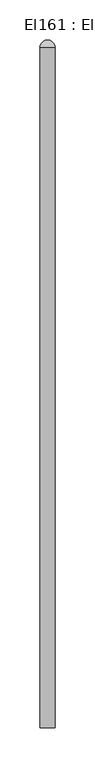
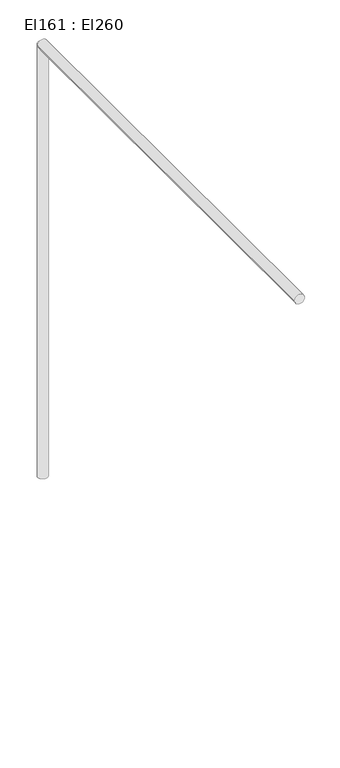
"""IFC4 building model written with IfcOpenShell, lengths in millimetres: cable carrier segment geometry, El161 : El260."""

from ifc_helpers import new_model, si_unit, point, frame, frame_2d, origin, place, context, project, spatial, circle_curve, trimmed, segment, composite_curve, outline, extrude, source, transform, mapped, element, save


def el161_el260_be5ef292(model_context):
    return source(origin(), model_context, "Body", "SweptSolid", [
        extrude(outline(composite_curve([segment(trimmed(circle_curve(frame_2d((7564.4746511, 15612.3191745)), 9.5), [point((7554.9746511, 15612.3191745))], [point((7573.9746511, 15612.3191745))], False, "CARTESIAN"), True, "CONTINUOUS"), segment(trimmed(circle_curve(frame_2d((7564.4746511, 15612.3191745)), 9.5), [point((7573.9746511, 15612.3191745))], [point((7554.9746511, 15612.3191745))], False, "CARTESIAN"), True, "CONTINUOUS")], self_intersect=False)), frame((0.0, 0.0, 1830.0), z_axis=(0.0, 0.0, 1.0), x_axis=(1.0, 0.0, 0.0)), (0.0, 0.0, 1.0), 870.0),
        extrude(outline(composite_curve([segment(trimmed(circle_curve(frame_2d((2700.0, 7564.4746511)), 9.5), [point((2700.0, 7554.9746511))], [point((2700.0, 7573.9746511))], False, "CARTESIAN"), True, "CONTINUOUS"), segment(trimmed(circle_curve(frame_2d((2700.0, 7564.4746511)), 9.5), [point((2700.0, 7573.9746511))], [point((2700.0, 7554.9746511))], False, "CARTESIAN"), True, "CONTINUOUS")], self_intersect=False)), frame((0.0, 14764.4051745, 0.0), z_axis=(0.0, 1.0, 0.0), x_axis=(0.0, 0.0, 1.0)), (0.0, 0.0, 1.0), 847.915),
    ])


if __name__ == "__main__":
    model = new_model("IFC4")
    model_context = context("Model", 3, world=origin())
    ifc_project = project(units=[si_unit("LENGTHUNIT", "METRE", prefix="MILLI")], contexts=[model_context])
    site = spatial("IfcSite", under=ifc_project)
    building = spatial("IfcBuilding", under=site)
    placement = place(None, origin())
    el161_el260_shape = el161_el260_be5ef292(model_context)
    element("IfcCableCarrierSegment", 1, ObjectType="El161 : El260", at=placement, inside=building, context=model_context, shape_type="MappedRepresentation", body=[
        mapped(el161_el260_shape, transform((0.0, 0.0, 0.0), x_axis=(1.0, 0.0, 0.0), y_axis=(0.0, 1.0, 0.0), z_axis=(0.0, 0.0, 1.0))),
    ])
    save(model, "model.ifc")
